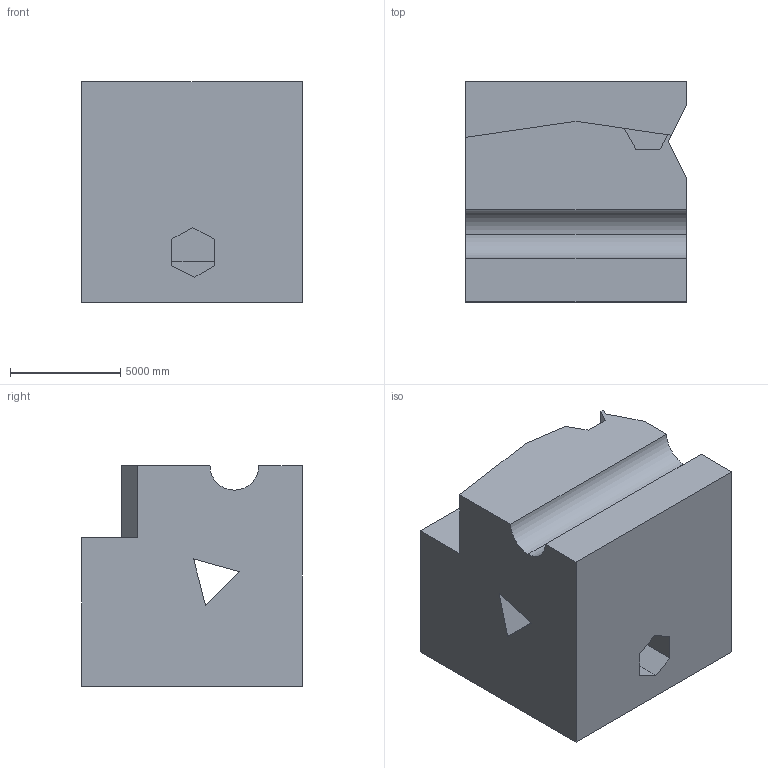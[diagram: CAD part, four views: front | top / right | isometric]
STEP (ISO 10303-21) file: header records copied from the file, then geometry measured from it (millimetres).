
FILE_DESCRIPTION (( 'STEP AP203' ), '1' );
FILE_NAME ('830.STEP', '2022-07-29T13:32:14', ( 'user' ), ( '' ), 'SwSTEP 2.0', 'SolidWorks 2021', '' );
FILE_SCHEMA (( 'CONFIG_CONTROL_DESIGN' ));
Length unit declared in the file: centimetre
Products named in the file (1): 830
Bounding box: 10000 x 10000 x 10000 mm (x, y, z)
Volume: 821855564704.3 mm3; surface area: 763284593.8 mm2
Topology: 1 solids, 1 shells, 45 faces, 126 edges, 84 vertices
Faces by surface type: plane 42, cylinder 3
Entity records: 1511 total; most frequent: CARTESIAN_POINT 256, ORIENTED_EDGE 252, DIRECTION 224, EDGE_CURVE 126, VECTOR 120, LINE 120, VERTEX_POINT 84, AXIS2_PLACEMENT_3D 52
